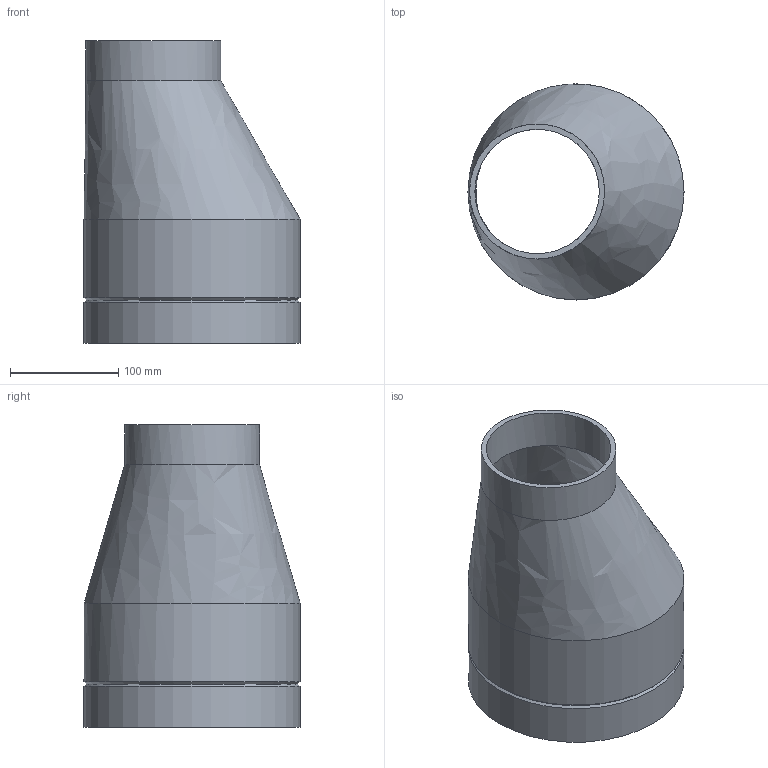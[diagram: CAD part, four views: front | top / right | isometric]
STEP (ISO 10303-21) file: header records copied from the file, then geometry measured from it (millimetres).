
FILE_DESCRIPTION(/* description */ (''),/* implementation_level */ '2;1');
FILE_NAME(/* name */ 'Z:\Geberit\Export\NewStep\370587.stp',/* time_stamp */ '2014-04-02T08:04:17+02:00',/* author */ ('nelson'),/* organization */ (''),/* preprocessor_version */ 'ST-DEVELOPER v15.2',/* originating_system */ 'Autodesk Inventor 2014',/* authorisation */ '');
FILE_SCHEMA (('AUTOMOTIVE_DESIGN { 1 0 10303 214 3 1 1 }'));
Length unit declared in the file: millimetre
Products named in the file (1): 370587
Bounding box: 200 x 200 x 280 mm (x, y, z)
Volume: 853580.9 mm3; surface area: 308120.4 mm2
Topology: 1 solids, 1 shells, 11 faces, 26 edges, 17 vertices
Faces by surface type: cylinder 5, cone 2, bspline 2, plane 2
Full cylindrical faces by diameter (mm): 115.2 x1, 125 x1, 187.6 x1, 200 x2
Entity records: 334 total; most frequent: CARTESIAN_POINT 80, DIRECTION 50, ORIENTED_EDGE 34, AXIS2_PLACEMENT_3D 25, EDGE_LOOP 20, EDGE_CURVE 17, CIRCLE 15, VERTEX_POINT 15
